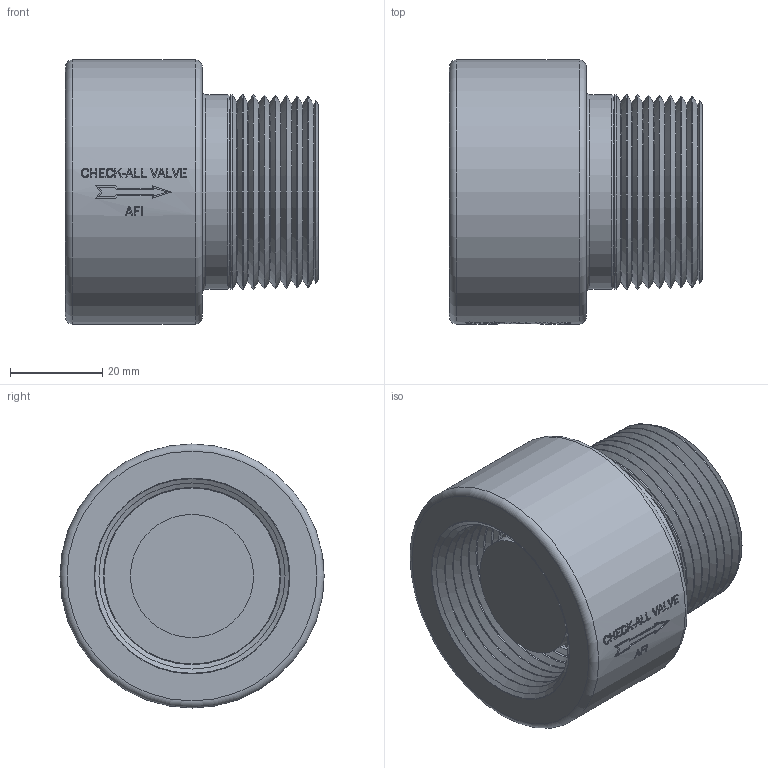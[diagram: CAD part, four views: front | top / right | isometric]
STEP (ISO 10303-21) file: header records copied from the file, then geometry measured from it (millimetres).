
FILE_DESCRIPTION(/* description */ ('Unknown'),/* implementation_level */ '2;1');
FILE_NAME(/* name */ 'AFIXXOR.500IX-WEB',/* time_stamp */ '2022-10-03T11:42:25-05:00',/* author */ ('Unknown'),/* organization */ ('Unknown'),/* preprocessor_version */ 'ST-DEVELOPER v18.102',/* originating_system */ 'Solid Edge',/* authorisation */ 'Unknown');
FILE_SCHEMA (('AUTOMOTIVE_DESIGN {1 0 10303 214 3 1 1}'));
Length unit declared in the file: inch
Products named in the file (1): AFIXXOR.500IX-WEB
Bounding box: 54.76 x 57.15 x 57.15 mm (x, y, z)
Volume: 87142.7 mm3; surface area: 20555.5 mm2
Topology: 1 solids, 1 shells, 274 faces, 676 edges, 431 vertices
Faces by surface type: plane 158, cone 63, cylinder 43, torus 6, bspline 4
Full cylindrical faces by diameter (mm): 22.606 x1, 26.67 x1, 33.02 x1, 38.102 x6, 42.164 x3, 57.15 x1
Entity records: 10314 total; most frequent: CARTESIAN_POINT 2557, ORIENTED_EDGE 1154, DIRECTION 1108, EDGE_CURVE 577, AXIS2_PLACEMENT_3D 445, VERTEX_POINT 414, EDGE_LOOP 383, FACE_BOUND 383
